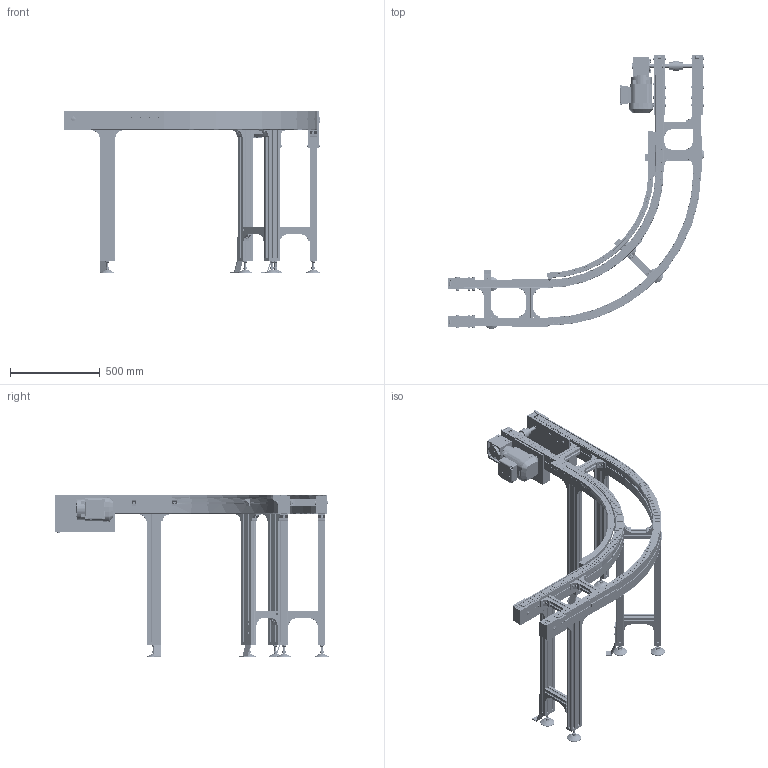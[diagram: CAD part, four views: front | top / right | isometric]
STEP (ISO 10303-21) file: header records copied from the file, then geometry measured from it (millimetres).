
FILE_DESCRIPTION(/* description */ (''),/* implementation_level */ '2;1');
FILE_NAME(/* name */ 'C:\Marketing\01_Versamove-SPU_STEP-Dateien-Homepage\VersamoveStandard\B240\STEP-Dateien\Flachplattenförderer_FPF-P-2045_Kurve90-links_B240.stp',/* time_stamp */ '2016-12-16T12:57:27+01:00',/* author */ ('herbert.engels'),/* organization */ (''),/* preprocessor_version */ 'ST-DEVELOPER v15.6',/* originating_system */ 'Autodesk Inventor 2015',/* authorisation */ '');
FILE_SCHEMA (('CONFIG_CONTROL_DESIGN'));
Length unit declared in the file: millimetre
Products named in the file (1): Flachplattenförderer_Kurve90-links_B240
Bounding box: 1427.87 x 1522.37 x 905.3 mm (x, y, z)
Volume: 31910470.5 mm3; surface area: 7646711.9 mm2
Topology: 52 solids, 52 shells, 8671 faces, 24031 edges, 15371 vertices
Faces by surface type: plane 5637, cylinder 2169, cone 484, torus 297, sphere 68, bspline 16
Full cylindrical faces by diameter (mm): 2 x8, 6 x14, 7.323 x4, 8 x113, 8.7 x4, 9 x12, 10 x8, 10.066 x1, 11 x4, 11.4 x22, 12 x12, 13 x108, 13.6 x8, 14 x72, 15 x12, 16 x16, 18 x4, 19 x4, 19.77 x4, 20 x17, 25 x1, 25.05 x4, 28 x1, 30 x2, 40 x2, 53 x1, 54 x2, 56 x3, 79 x6, 117 x1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
Entity records: 284369 total; most frequent: CARTESIAN_POINT 55426, ORIENTED_EDGE 46170, DIRECTION 44965, EDGE_CURVE 23052, LINE 15887, VECTOR 15887, VERTEX_POINT 15113, AXIS2_PLACEMENT_3D 14539
